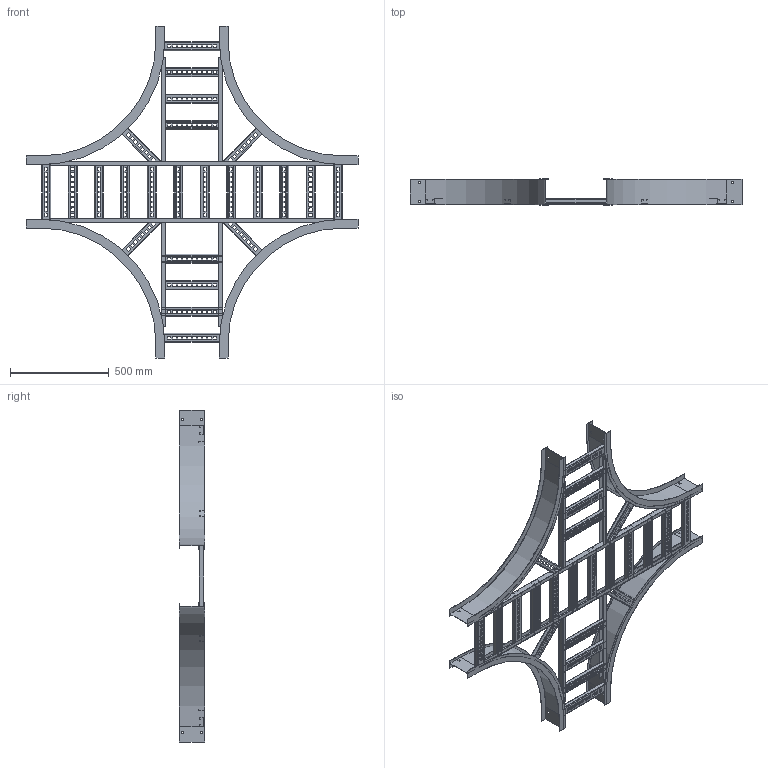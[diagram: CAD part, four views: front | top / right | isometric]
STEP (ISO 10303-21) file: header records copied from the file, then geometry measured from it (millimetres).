
FILE_DESCRIPTION((''),'2;1');
FILE_NAME('AHF512VHX24_ASM','2010-02-02T',('erouzier'),(''),'PRO/ENGINEER BY PARAMETRIC TECHNOLOGY CORPORATION, 2008510','PRO/ENGINEER BY PARAMETRIC TECHNOLOGY CORPORATION, 2008510','');
FILE_SCHEMA(('CONFIG_CONTROL_DESIGN'));
Length unit declared in the file: inch
Products named in the file (25): CDS001811-5-90-24-I; CDS002159L12-P_AF35; CDS002159L12-P_AF36; CDS002159L12-P_AF37; CDS002159L12-P_AF38; CDS002159L12-P_AF44; CDS002159L12-P_AF46; CDS002159L12-P_AF39; CDS002159L12-P_AF40; CDS002159L12-P_AF41; CDS002159L12-P_AF43; CDS002159L12-P_AF45; CDS002159L12-P_AF42; CDS000495_GEN_AF18; CDS000495_GEN_AF19; CDS000495_GEN_AF22; CDS000495_GEN_AF23; CDS000495_GEN_AF20; CDS000495_GEN_AF21; CDS002159L12-P_AF33; CDS002159L12-P_AF34; CDS002159L12-P_AF31; CDS002159L12-P_AF32; CDS002159L12-P; AHF512VHX24_ASM
Assembly tree (34 placements, depth 2):
  AHF512VHX24_ASM
    CDS001811-5-90-24-I  x4
    CDS002159L12-P_AF35
    CDS002159L12-P_AF36
    CDS002159L12-P_AF37
    CDS002159L12-P_AF38
    CDS002159L12-P_AF44
    CDS002159L12-P_AF46
    CDS002159L12-P_AF39
    CDS002159L12-P_AF40
    CDS002159L12-P_AF41
    CDS002159L12-P_AF43
    CDS002159L12-P_AF45
    CDS002159L12-P_AF42
    CDS000495_GEN_AF18
    CDS000495_GEN_AF19
    CDS000495_GEN_AF22
    CDS000495_GEN_AF23
    CDS000495_GEN_AF20
    CDS000495_GEN_AF21
    CDS002159L12-P_AF33
    CDS002159L12-P_AF34
    CDS002159L12-P_AF31
    CDS002159L12-P_AF32
    CDS002159L12-P  x8
Bounding box: 1680.46 x 129.03 x 1680.46 mm (x, y, z)
Volume: 3704510.4 mm3; surface area: 4160065.7 mm2
Topology: 34 solids, 34 shells, 2820 faces, 8256 edges, 5504 vertices
Faces by surface type: plane 1604, cylinder 1216
Entity records: 65639 total; most frequent: CARTESIAN_POINT 11743, ORIENTED_EDGE 11256, DIRECTION 11188, EDGE_CURVE 5628, VECTOR 3946, LINE 3946, VERTEX_POINT 3752, AXIS2_PLACEMENT_3D 3621
